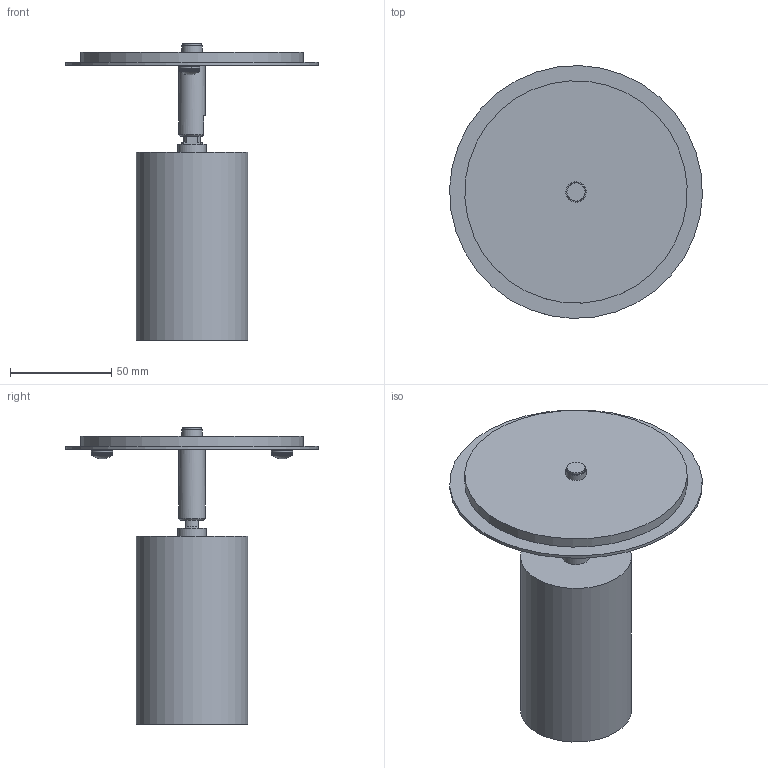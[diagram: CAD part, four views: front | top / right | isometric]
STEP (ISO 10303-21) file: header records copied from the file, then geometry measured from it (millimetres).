
FILE_DESCRIPTION(/* description */ (''),/* implementation_level */ '2;1');
FILE_NAME(/* name */ '260910_B_B796.stp',/* time_stamp */ '2026-09-10T08:53:17+02:00',/* author */ ('Dominik'),/* organization */ (''),/* preprocessor_version */ 'ST-DEVELOPER v20.1',/* originating_system */ 'Autodesk Inventor 2027',/* authorisation */ '');
FILE_SCHEMA (('AUTOMOTIVE_DESIGN { 1 0 10303 214 3 1 1 }'));
Length unit declared in the file: millimetre
Products named in the file (1): B796 jako część
Bounding box: 124.95 x 124.95 x 146.8 mm (x, y, z)
Volume: 167281.4 mm3; surface area: 77098.5 mm2
Topology: 122 solids, 124 shells, 923 faces, 2082 edges, 1438 vertices
Faces by surface type: plane 877, cylinder 32, cone 8, torus 3, sphere 2, bspline 1
Full cylindrical faces by diameter (mm): 2 x2, 3 x4, 4 x2, 5 x1, 9 x1, 9.75 x1, 10 x4, 13 x1, 14 x1, 50 x3, 50.6 x1, 51 x3, 55 x1, 110 x1, 125 x1
Entity records: 27663 total; most frequent: CARTESIAN_POINT 4790, ORIENTED_EDGE 4388, DIRECTION 4251, EDGE_CURVE 2194, LINE 1983, VECTOR 1983, VERTEX_POINT 1541, AXIS2_PLACEMENT_3D 1134
